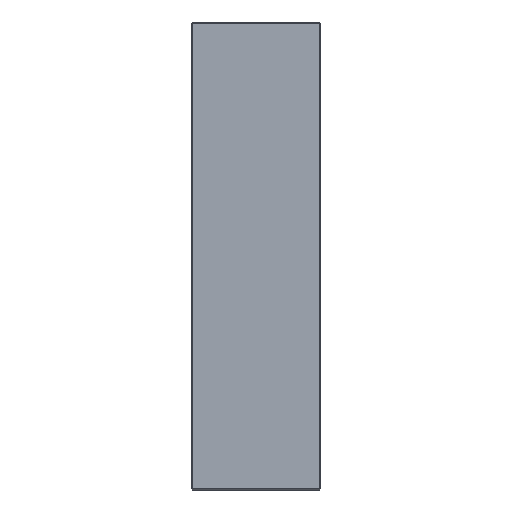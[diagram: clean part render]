
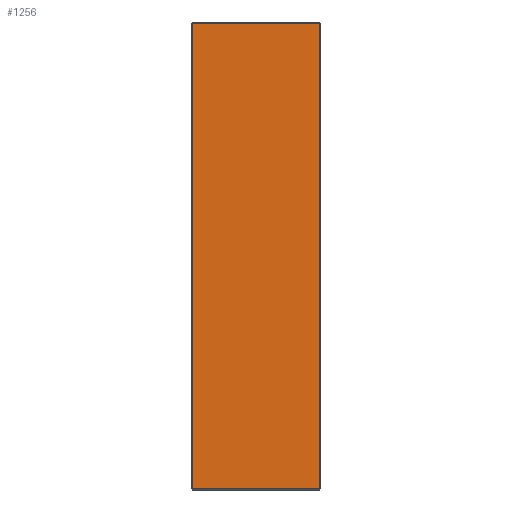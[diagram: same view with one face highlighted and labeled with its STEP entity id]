
A CAD part, left-side view. The second image highlights one B-rep face of the part: STEP entity #1256.
In plain terms, the highlighted planar face has unit normal (-1, 0, 0).
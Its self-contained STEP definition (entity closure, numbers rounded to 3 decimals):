
#33 = VERTEX_POINT ( 'NONE', #1084 ) ;
#60 = ORIENTED_EDGE ( 'NONE', *, *, #1594, .T. ) ;
#117 = VECTOR ( 'NONE', #830, 1000. ) ;
#178 = DIRECTION ( 'NONE',  ( 0., 1., 0. ) ) ;
#182 = CARTESIAN_POINT ( 'NONE',  ( -173., 96., 172. ) ) ;
#195 = EDGE_CURVE ( 'NONE', #1351, #784, #1143, .T. ) ;
#203 = LINE ( 'NONE', #182, #320 ) ;
#258 = LINE ( 'NONE', #1715, #117 ) ;
#281 = ORIENTED_EDGE ( 'NONE', *, *, #422, .T. ) ;
#289 = VECTOR ( 'NONE', #974, 1000. ) ;
#320 = VECTOR ( 'NONE', #178, 1000. ) ;
#398 = CARTESIAN_POINT ( 'NONE',  ( -173., 95., 172. ) ) ;
#422 = EDGE_CURVE ( 'NONE', #1139, #1351, #535, .T. ) ;
#535 = LINE ( 'NONE', #999, #289 ) ;
#568 = EDGE_CURVE ( 'NONE', #784, #33, #258, .T. ) ;
#660 = EDGE_LOOP ( 'NONE', ( #60, #281, #1776, #1800 ) ) ;
#663 = CARTESIAN_POINT ( 'NONE',  ( -173., 95., -172. ) ) ;
#682 = AXIS2_PLACEMENT_3D ( 'NONE', #1085, #1186, #1039 ) ;
#784 = VERTEX_POINT ( 'NONE', #1793 ) ;
#830 = DIRECTION ( 'NONE',  ( 0., 0., 1. ) ) ;
#974 = DIRECTION ( 'NONE',  ( 0., 0., -1. ) ) ;
#999 = CARTESIAN_POINT ( 'NONE',  ( -173., 95., 173. ) ) ;
#1039 = DIRECTION ( 'NONE',  ( 0., 0., -1. ) ) ;
#1049 = PLANE ( 'NONE',  #682 ) ;
#1084 = CARTESIAN_POINT ( 'NONE',  ( -173., 1., 172. ) ) ;
#1085 = CARTESIAN_POINT ( 'NONE',  ( -173., 96., 173. ) ) ;
#1103 = VECTOR ( 'NONE', #1341, 1000. ) ;
#1139 = VERTEX_POINT ( 'NONE', #398 ) ;
#1143 = LINE ( 'NONE', #1472, #1103 ) ;
#1186 = DIRECTION ( 'NONE',  ( 1., 0., 0. ) ) ;
#1256 = ADVANCED_FACE ( 'NONE', ( #1359 ), #1049, .F. ) ;
#1341 = DIRECTION ( 'NONE',  ( 0., -1., 0. ) ) ;
#1351 = VERTEX_POINT ( 'NONE', #663 ) ;
#1359 = FACE_OUTER_BOUND ( 'NONE', #660, .T. ) ;
#1472 = CARTESIAN_POINT ( 'NONE',  ( -173., 96., -172. ) ) ;
#1594 = EDGE_CURVE ( 'NONE', #33, #1139, #203, .T. ) ;
#1715 = CARTESIAN_POINT ( 'NONE',  ( -173., 1., 173. ) ) ;
#1776 = ORIENTED_EDGE ( 'NONE', *, *, #195, .T. ) ;
#1793 = CARTESIAN_POINT ( 'NONE',  ( -173., 1., -172. ) ) ;
#1800 = ORIENTED_EDGE ( 'NONE', *, *, #568, .T. ) ;
